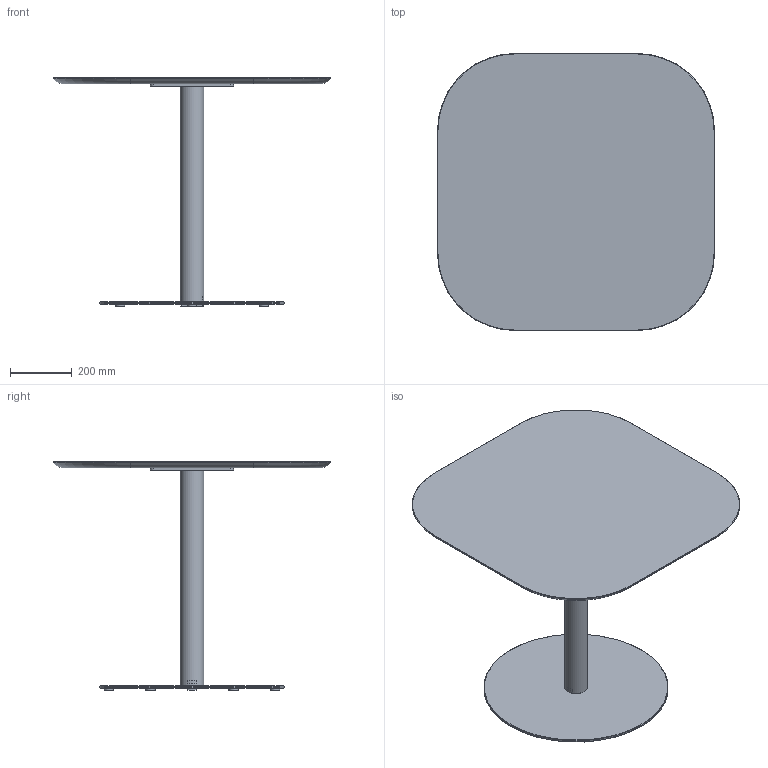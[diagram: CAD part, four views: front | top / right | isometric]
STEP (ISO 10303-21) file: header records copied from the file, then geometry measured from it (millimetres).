
FILE_DESCRIPTION( ('This file contains a STEP AP42 implementation' ,'as created by ZW3D STEP Interface translator.') ,'2;1' );
FILE_NAME( 'Henri - B_Rond - F2 - M3 - 900 x 900 x 750.stp' ,'24 912.153030', (''), ('ZWCAD Software Co.'), 'Version 1.0', 'ZW3D to STEP translator', '' );
FILE_SCHEMA(('AUTOMOTIVE_DESIGN { 1 0 10303 214 1 1 1 1 }'));
Length unit declared in the file: millimetre
Products named in the file (14): 0; PIED BISTROT PARAMETRIQUE_; COLONNE ACIER Ø76 V.02_; TUB-D076-02_; PLA-R76B-01_; CROIX ACIER 370 V.02_; CRX-X370-02_; SOCLE ACIER C Ø600 V.02_; SCL-D600-02_; PLA-R30A-01_; PLA-R30A-01; WUERTH 0276063020 Euro-screw 6.3x2 Verzinkt_; PLATEAU BISTROT PARAMETRIQUE_; insert_m6_13_
Assembly tree (24 placements, depth 3):
  0
  PIED BISTROT PARAMETRIQUE_
    COLONNE ACIER Ø76 V.02_
      TUB-D076-02_
      PLA-R76B-01_  x2
    CROIX ACIER 370 V.02_
      CRX-X370-02_
    SOCLE ACIER C Ø600 V.02_
      SCL-D600-02_
      PLA-R30A-01_
      PLA-R30A-01  x5
    WUERTH 0276063020 Euro-screw 6.3x2 Verzinkt_
    PLATEAU BISTROT PARAMETRIQUE_
      insert_m6_13_  x8
Bounding box: 900 x 900 x 744 mm (x, y, z)
Volume: 17850945.7 mm3; surface area: 2642537.9 mm2
Topology: 21 solids, 21 shells, 524 faces, 1273 edges, 802 vertices
Faces by surface type: plane 250, bspline 121, cylinder 103, cone 45, torus 5
Full cylindrical faces by diameter (mm): 4.88 x1, 6 x8, 6.3 x1, 8 x47, 12 x2, 14 x2, 30 x6, 72 x1, 76 x1, 600 x1
Entity records: 11742 total; most frequent: CARTESIAN_POINT 3302, ORIENTED_EDGE 1526, DIRECTION 1432, EDGE_CURVE 763, VERTEX_POINT 490, AXIS2_PLACEMENT_3D 482, VECTOR 468, LINE 468
